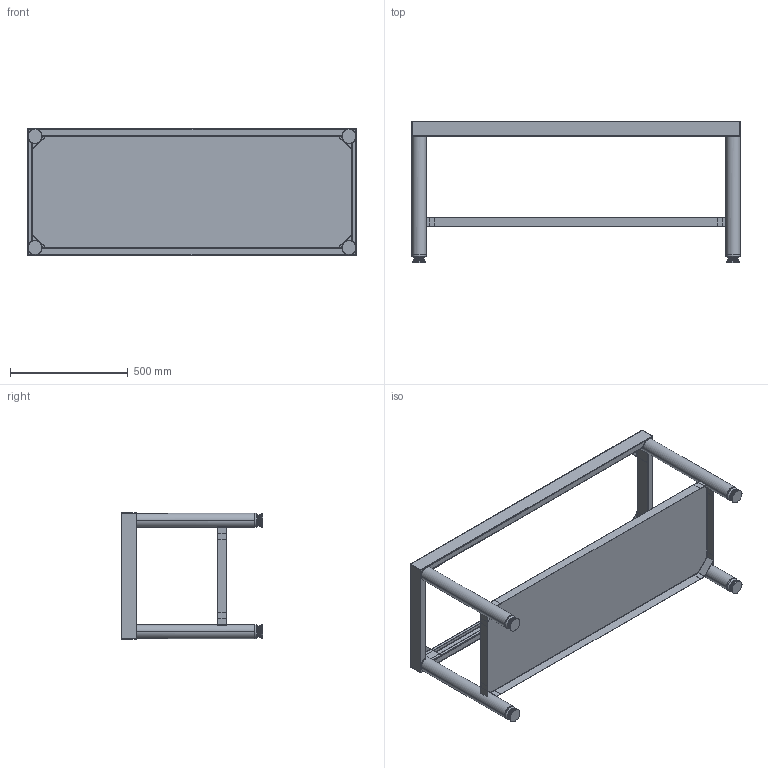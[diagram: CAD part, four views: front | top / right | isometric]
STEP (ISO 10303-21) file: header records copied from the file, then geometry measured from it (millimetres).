
FILE_DESCRIPTION((''),'2;1');
FILE_NAME('SSK1400_EXPORT_STEP','2017-11-23T',('r.avril'),(''),'PRO/ENGINEER BY PARAMETRIC TECHNOLOGY CORPORATION, 2014200','PRO/ENGINEER BY PARAMETRIC TECHNOLOGY CORPORATION, 2014200','');
FILE_SCHEMA(('AP203_CONFIGURATION_CONTROLLED_3D_DESIGN_OF_MECHANICAL_PARTS_AND_ASSEMBLIES_MIM_LF { 1 0 10303 403 2 1 2 }'));
Length unit declared in the file: millimetre
Products named in the file (1): SSK1400_EXPORT_STEP
Bounding box: 1395 x 600 x 535 mm (x, y, z)
Volume: 2840054.8 mm3; surface area: 3726605.1 mm2
Topology: 14 solids, 14 shells, 367 faces, 912 edges, 568 vertices
Faces by surface type: plane 231, cylinder 88, torus 24, cone 16, sphere 8
Entity records: 11952 total; most frequent: CARTESIAN_POINT 2107, DIRECTION 1897, ORIENTED_EDGE 1824, EDGE_CURVE 912, AXIS2_PLACEMENT_3D 659, VECTOR 576, LINE 576, VERTEX_POINT 568
